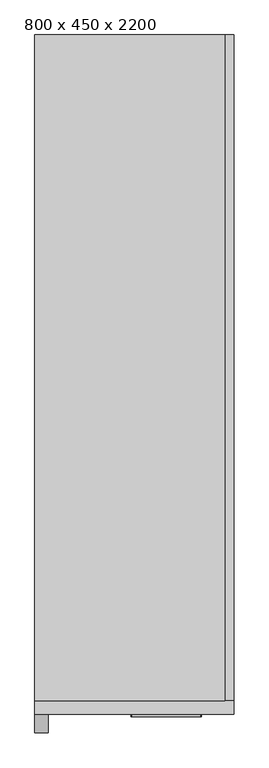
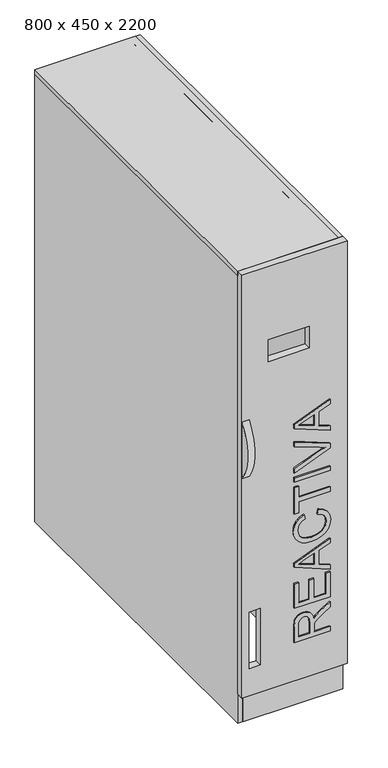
"""IFC4 building model written with IfcOpenShell, lengths in millimetres: furniture geometry, Bateria_condensaors C250_controlador : 800 x 450 x 2200."""

from ifc_helpers import new_model, si_unit, point, frame, frame_2d, origin, origin_with_axes, place, context, project, spatial, polyline, circle_curve, trimmed, segment, composite_curve, outline, extrude, source, transform, mapped, element, save


def furniture_800_x_450_x_2200_7879c233(model_context):
    return source(origin(), model_context, "Body", "SweptSolid", [
        extrude(outline(polyline([(303.2182935, -25.7472744), (322.0538516, -25.7472744), (322.0538516, -91.6717279), (344.7889589, -91.6717279), (355.7150542, -91.0095404), (364.6729808, -87.4226909), (374.6241888, -77.6554239), (388.7876456, -56.9804558), (408.3957559, -25.7472744), (430.2847346, -25.7472744), (405.1583944, -66.5821759), (389.8912916, -85.969557), (379.1859255, -94.0261727), (397.7409736, -99.0201708), (410.7318066, -108.0424767), (418.3883506, -120.3481295), (420.9405319, -135.192168), (419.4000261, -147.1253402), (414.7785085, -157.9824576), (407.5772185, -166.7380491), (398.2973951, -172.3666436), (368.1494656, -176.4317396), (303.2182935, -176.4317396), (303.2182935, -25.7472744)]), holes=[polyline([(322.0538516, -110.5072861), (322.0538516, -157.5961815), (368.958806, -157.5961815), (383.8626254, -155.9683037), (394.1403286, -151.0846702), (400.1138125, -143.681045), (402.1049738, -134.4931922), (397.9295131, -121.7092929), (385.7158309, -113.1744306), (364.2131283, -110.5072861), (322.0538516, -110.5072861)])]), frame((0.0, -5.0, 0.0), z_axis=(0.0, 1.0, 0.0), x_axis=(0.0, 0.0, 1.0)), (0.0, 0.0, 1.0), 5.0),
        extrude(outline(polyline([(453.9027587, -25.7472744), (564.5616629, -25.7472744), (564.5616629, -44.5828326), (472.7383169, -44.5828326), (472.7383169, -94.0261727), (557.4983286, -94.0261727), (557.4983286, -112.8617309), (472.7383169, -112.8617309), (472.7383169, -157.5961815), (562.2072181, -157.5961815), (562.2072181, -176.4317396), (453.9027587, -176.4317396), (453.9027587, -25.7472744)])), frame((0.0, -5.0, 0.0), z_axis=(0.0, 1.0, 0.0), x_axis=(0.0, 0.0, 1.0)), (0.0, 0.0, 1.0), 5.0),
        extrude(outline(polyline([(575.2670289, -25.7472744), (595.1694449, -25.7472744), (612.3863222, -72.8361698), (674.4480148, -72.8361698), (691.7016804, -25.7472744), (711.6040963, -25.7472744), (651.4553901, -176.4317396), (635.4157351, -176.4317396), (575.2670289, -25.7472744)]), holes=[polyline([(619.3025037, -91.6717279), (634.0545717, -131.9548064), (643.4355626, -157.5961815), (653.9937759, -128.7174449), (667.5686215, -91.6717279), (619.3025037, -91.6717279)])]), frame((0.0, -5.0, 0.0), z_axis=(0.0, 1.0, 0.0), x_axis=(0.0, 0.0, 1.0)), (0.0, 0.0, 1.0), 5.0),
        extrude(outline(polyline([(837.6772561, -79.3108929), (831.5842105, -63.1792674), (821.6927834, -51.5725905), (808.5915858, -44.5644385), (792.8692291, -42.2283878), (779.3817554, -43.9436376), (766.8783661, -49.089387), (756.4489115, -57.7024242), (749.1832421, -69.8195374), (744.9204095, -84.865911), (743.4994653, -102.2667294), (748.3003254, -130.2625492), (754.8624204, -142.4578374), (764.9469856, -151.8940106), (778.2367227, -157.9364723), (794.4143334, -159.9506263), (808.4490316, -158.1342089), (819.8717675, -152.6849568), (828.7929059, -143.2625792), (835.3228113, -129.5267852), (854.1583695, -134.0149456), (845.8396378, -152.9240801), (832.876396, -167.0507488), (815.8020729, -175.8523255), (795.1500974, -178.7861844), (776.2225688, -176.5191116), (758.9505091, -169.7178932), (744.3869806, -158.5480761), (733.5850455, -143.1752073), (726.8941918, -124.2016934), (724.6639072, -102.2299412), (726.6366744, -81.3986232), (732.554976, -61.9468627), (742.2486665, -45.40137), (755.5476007, -33.2888553), (772.8978353, -25.8668361), (794.7454272, -23.3928296), (816.266524, -26.6623809), (834.1823771, -36.4710346), (847.8216021, -52.506091), (856.5128142, -74.4548506), (837.6772561, -79.3108929)])), frame((0.0, -5.0, 0.0), z_axis=(0.0, 1.0, 0.0), x_axis=(0.0, 0.0, 1.0)), (0.0, 0.0, 1.0), 5.0),
        extrude(outline(polyline([(920.082823, -25.7472744), (938.9183812, -25.7472744), (938.9183812, -157.5961815), (988.3617213, -157.5961815), (988.3617213, -176.4317396), (870.6394828, -176.4317396), (870.6394828, -157.5961815), (920.082823, -157.5961815), (920.082823, -25.7472744)])), frame((0.0, -5.0, 0.0), z_axis=(0.0, 1.0, 0.0), x_axis=(0.0, 0.0, 1.0)), (0.0, 0.0, 1.0), 5.0),
        extrude(outline(polyline([(-25.7472744, -5.0), (-176.4317396, -5.0), (-176.4317396, 0.0), (-25.7472744, 0.0), (-25.7472744, -5.0)])), frame((0.0, 0.0, 1011.906169), z_axis=(0.0, 0.0, 1.0), x_axis=(1.0, 0.0, 0.0)), (0.0, 0.0, 1.0), 18.8355582),
        extrude(outline(polyline([(1189.7771137, -25.7472744), (1209.6795296, -25.7472744), (1226.896407, -72.8361698), (1288.9580996, -72.8361698), (1306.2117651, -25.7472744), (1326.1141811, -25.7472744), (1265.9654749, -176.4317396), (1249.9258199, -176.4317396), (1189.7771137, -25.7472744)]), holes=[polyline([(1233.8125885, -91.6717279), (1248.5646565, -131.9548064), (1257.9456474, -157.5961815), (1268.5038606, -128.7174449), (1282.0787063, -91.6717279), (1233.8125885, -91.6717279)])]), frame((0.0, -5.0, 0.0), z_axis=(0.0, 1.0, 0.0), x_axis=(0.0, 0.0, 1.0)), (0.0, 0.0, 1.0), 5.0),
        extrude(outline(polyline([(1112.9265649, -25.7472744), (1132.3875224, -25.7472744), (1189.8139019, -176.4317396), (1169.6539685, -176.4317396), (1129.4076783, -67.8697629), (1121.3878508, -43.4056102), (1113.2576587, -67.8697629), (1073.121733, -176.4317396), (1052.9617997, -176.4317396), (1112.9265649, -25.7472744)])), frame((0.0, -5.0, 0.0), z_axis=(0.0, 1.0, 0.0), x_axis=(0.0, 0.0, 1.0)), (0.0, 0.0, 1.0), 5.0),
        extrude(outline(polyline([(48.3182922, 30.0), (-371.6817078, 30.0), (-371.6817078, 50.0), (48.3182922, 50.0), (48.3182922, 30.0)])), origin_with_axes(), (0.0, 0.0, 1.0), 130.0),
        extrude(outline(composite_curve([segment(trimmed(circle_curve(frame_2d((164.9755874, 1225.0)), 206.9829568), [point((0.0, 1100.0))], [point((0.0, 1350.0))], False, "CARTESIAN"), True, "CONTINUOUS"), segment(polyline([(0.0, 1350.0), (0.0, 1100.0)]), True, "CONTINUOUS")], self_intersect=False)), frame((-391.6817078, 0.0, 0.0), z_axis=(1.0, 0.0, 0.0), x_axis=(0.0, 1.0, 0.0)), (0.0, 0.0, 1.0), 30.0),
        extrude(outline(polyline([(-391.6817078, 1500.0), (28.3182922, 1500.0), (28.3182922, 30.0), (-391.6817078, 30.0), (-391.6817078, 1500.0)])), frame((0.0, 0.0, 1980.0), z_axis=(0.0, 0.0, 1.0), x_axis=(1.0, 0.0, 0.0)), (0.0, 0.0, 1.0), 20.0),
        extrude(outline(polyline([(2000.0, 48.3182922), (2000.0, -391.6817078), (130.0, -391.6817078), (130.0, 48.3182922), (2000.0, 48.3182922)]), holes=[polyline([(500.0, -314.878584), (250.0, -314.878584), (250.0, -361.6817078), (500.0, -361.6817078), (500.0, -314.878584)]), polyline([(1676.4355218, -281.9704199), (1676.4355218, -109.8517568), (1580.3136269, -109.8517568), (1580.3136269, -281.9704199), (1676.4355218, -281.9704199)])]), frame((0.0, 0.0, 0.0), z_axis=(0.0, 1.0, 0.0), x_axis=(0.0, 0.0, 1.0)), (0.0, 0.0, 1.0), 30.0),
        extrude(outline(polyline([(48.3182922, 1500.0), (48.3182922, 30.0), (0.3302078, 30.0), (0.3302078, 1457.0272719), (-361.6817078, 1457.0272719), (-361.6817078, 30.0), (-391.6817078, 30.0), (-391.6817078, 1500.0), (48.3182922, 1500.0)])), origin_with_axes(), (0.0, 0.0, 1.0), 2000.0),
    ])


if __name__ == "__main__":
    model = new_model("IFC4")
    model_context = context("Model", 3, world=origin())
    ifc_project = project(units=[si_unit("LENGTHUNIT", "METRE", prefix="MILLI")], contexts=[model_context])
    site = spatial("IfcSite", under=ifc_project)
    building = spatial("IfcBuilding", under=site)
    placement = place(None, origin())
    furniture_800_x_450_x_2200_shape = furniture_800_x_450_x_2200_7879c233(model_context)
    element("IfcFurniture", 1, ObjectType="Bateria_condensaors C250_controlador : 800 x 450 x 2200", at=placement, inside=building, context=model_context, shape_type="MappedRepresentation", body=[
        mapped(furniture_800_x_450_x_2200_shape, transform((0.0, 0.0, 0.0), x_axis=(1.0, 0.0, 0.0), y_axis=(0.0, 1.0, 0.0), z_axis=(0.0, 0.0, 1.0))),
    ])
    save(model, "model.ifc")
